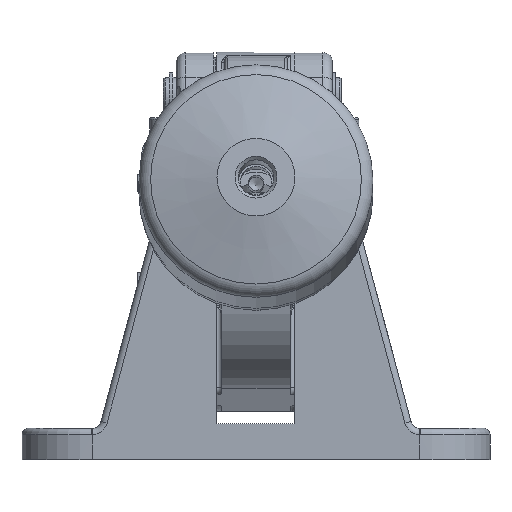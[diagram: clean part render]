
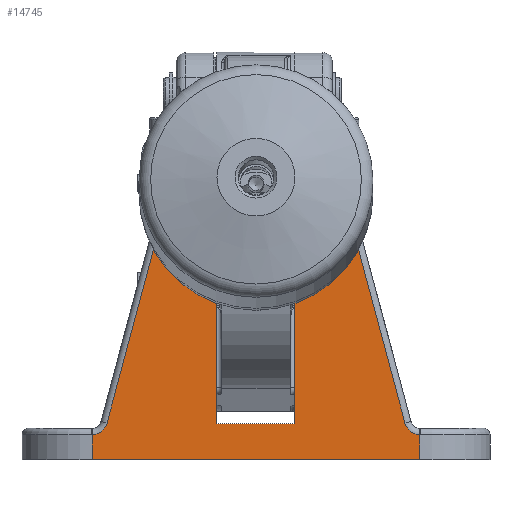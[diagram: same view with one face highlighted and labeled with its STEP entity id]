
A CAD part, front view. The second image highlights one B-rep face of the part: STEP entity #14745.
In plain terms, the highlighted planar face has unit normal (0, -1, 0).
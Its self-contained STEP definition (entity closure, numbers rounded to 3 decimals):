
#827=CIRCLE('',#15770,5.);
#832=CIRCLE('',#15779,5.);
#1658=FACE_OUTER_BOUND('',#2477,.T.);
#2477=EDGE_LOOP('',(#10207,#10208,#10209,#10210,#10211,#10212,#10213,#10214,
#10215,#10216,#10217,#10218,#10219,#10220,#10221,#10222,#10223,#10224));
#3267=LINE('',#24776,#4371);
#3279=LINE('',#24801,#4383);
#3280=LINE('',#24804,#4384);
#3299=LINE('',#24858,#4403);
#3311=LINE('',#24890,#4415);
#3354=LINE('',#24990,#4458);
#3392=LINE('',#25141,#4496);
#3402=LINE('',#25170,#4506);
#3419=LINE('',#25209,#4523);
#3448=LINE('',#25339,#4552);
#3450=LINE('',#25410,#4554);
#3452=LINE('',#25416,#4556);
#3457=LINE('',#25459,#4561);
#3459=LINE('',#25497,#4563);
#3460=LINE('',#25500,#4564);
#3463=LINE('',#25516,#4567);
#4371=VECTOR('',#17684,10.);
#4383=VECTOR('',#17712,10.);
#4384=VECTOR('',#17715,10.);
#4403=VECTOR('',#17762,10.);
#4415=VECTOR('',#17798,10.);
#4458=VECTOR('',#17867,10.);
#4496=VECTOR('',#17975,10.);
#4506=VECTOR('',#17999,10.);
#4523=VECTOR('',#18032,10.);
#4552=VECTOR('',#18127,10.);
#4554=VECTOR('',#18159,10.);
#4556=VECTOR('',#18165,10.);
#4561=VECTOR('',#18186,10.);
#4563=VECTOR('',#18208,10.);
#4564=VECTOR('',#18213,10.);
#4567=VECTOR('',#18234,10.);
#5687=VERTEX_POINT('',#24770);
#5688=VERTEX_POINT('',#24775);
#5693=VERTEX_POINT('',#24799);
#5694=VERTEX_POINT('',#24803);
#5713=VERTEX_POINT('',#24849);
#5715=VERTEX_POINT('',#24856);
#5723=VERTEX_POINT('',#24889);
#5767=VERTEX_POINT('',#24989);
#5824=VERTEX_POINT('',#25138);
#5825=VERTEX_POINT('',#25140);
#5837=VERTEX_POINT('',#25169);
#5851=VERTEX_POINT('',#25207);
#5884=VERTEX_POINT('',#25399);
#5885=VERTEX_POINT('',#25406);
#5887=VERTEX_POINT('',#25414);
#5891=VERTEX_POINT('',#25427);
#5892=VERTEX_POINT('',#25429);
#5895=VERTEX_POINT('',#25496);
#7224=EDGE_CURVE('',#5688,#5687,#3267,.T.);
#7237=EDGE_CURVE('',#5687,#5693,#3279,.T.);
#7238=EDGE_CURVE('',#5694,#5688,#3280,.T.);
#7265=EDGE_CURVE('',#5713,#5715,#3299,.T.);
#7281=EDGE_CURVE('',#5723,#5713,#3311,.T.);
#7331=EDGE_CURVE('',#5767,#5694,#3354,.T.);
#7398=EDGE_CURVE('',#5825,#5824,#3392,.T.);
#7413=EDGE_CURVE('',#5837,#5723,#3402,.T.);
#7435=EDGE_CURVE('',#5693,#5851,#3419,.T.);
#7484=EDGE_CURVE('',#5715,#5825,#3448,.T.);
#7497=EDGE_CURVE('',#5884,#5885,#827,.T.);
#7498=EDGE_CURVE('',#5885,#5851,#3450,.T.);
#7501=EDGE_CURVE('',#5887,#5884,#3452,.T.);
#7509=EDGE_CURVE('',#5892,#5891,#832,.T.);
#7512=EDGE_CURVE('',#5837,#5892,#3457,.T.);
#7520=EDGE_CURVE('',#5895,#5891,#3459,.T.);
#7522=EDGE_CURVE('',#5824,#5767,#3460,.T.);
#7529=EDGE_CURVE('',#5895,#5887,#3463,.T.);
#10207=ORIENTED_EDGE('',*,*,#7497,.F.);
#10208=ORIENTED_EDGE('',*,*,#7501,.F.);
#10209=ORIENTED_EDGE('',*,*,#7529,.F.);
#10210=ORIENTED_EDGE('',*,*,#7520,.T.);
#10211=ORIENTED_EDGE('',*,*,#7509,.F.);
#10212=ORIENTED_EDGE('',*,*,#7512,.F.);
#10213=ORIENTED_EDGE('',*,*,#7413,.T.);
#10214=ORIENTED_EDGE('',*,*,#7281,.T.);
#10215=ORIENTED_EDGE('',*,*,#7265,.T.);
#10216=ORIENTED_EDGE('',*,*,#7484,.T.);
#10217=ORIENTED_EDGE('',*,*,#7398,.T.);
#10218=ORIENTED_EDGE('',*,*,#7522,.T.);
#10219=ORIENTED_EDGE('',*,*,#7331,.T.);
#10220=ORIENTED_EDGE('',*,*,#7238,.T.);
#10221=ORIENTED_EDGE('',*,*,#7224,.T.);
#10222=ORIENTED_EDGE('',*,*,#7237,.T.);
#10223=ORIENTED_EDGE('',*,*,#7435,.T.);
#10224=ORIENTED_EDGE('',*,*,#7498,.F.);
#13560=PLANE('',#15802);
#14745=ADVANCED_FACE('',(#1658),#13560,.T.);
#15770=AXIS2_PLACEMENT_3D('',#25408,#18155,#18156);
#15779=AXIS2_PLACEMENT_3D('',#25431,#18180,#18181);
#15802=AXIS2_PLACEMENT_3D('',#25515,#18232,#18233);
#17684=DIRECTION('',(-1.,0.,0.));
#17712=DIRECTION('',(-1.,0.,0.));
#17715=DIRECTION('',(-1.,0.,0.));
#17762=DIRECTION('',(-1.,0.,0.));
#17798=DIRECTION('',(-1.,0.,0.));
#17867=DIRECTION('',(0.,0.,1.));
#17975=DIRECTION('',(0.,0.,-1.));
#17999=DIRECTION('',(0.,0.,1.));
#18032=DIRECTION('',(0.,0.,-1.));
#18127=DIRECTION('',(-1.,0.,0.));
#18155=DIRECTION('center_axis',(0.,-1.,0.));
#18156=DIRECTION('ref_axis',(0.619,0.,-0.785));
#18159=DIRECTION('',(0.259,0.,0.966));
#18165=DIRECTION('',(0.,0.,1.));
#18180=DIRECTION('center_axis',(0.,-1.,0.));
#18181=DIRECTION('ref_axis',(-0.619,0.,-0.785));
#18186=DIRECTION('',(0.259,0.,-0.966));
#18208=DIRECTION('',(0.,0.,1.));
#18213=DIRECTION('',(-1.,0.,0.));
#18232=DIRECTION('center_axis',(0.,-1.,0.));
#18233=DIRECTION('ref_axis',(0.,0.,
-1.));
#18234=DIRECTION('',(-1.,0.,0.));
#24770=CARTESIAN_POINT('',(-27.,-13.5,110.35));
#24775=CARTESIAN_POINT('',(-14.,-13.5,110.35));
#24776=CARTESIAN_POINT('',(52.5,-13.5,110.35));
#24799=CARTESIAN_POINT('',(-27.5,-13.5,110.35));
#24801=CARTESIAN_POINT('',(52.5,-13.5,110.35));
#24803=CARTESIAN_POINT('',(-12.5,-13.5,110.35));
#24804=CARTESIAN_POINT('',(52.5,-13.5,110.35));
#24849=CARTESIAN_POINT('',(27.,-13.5,110.35));
#24856=CARTESIAN_POINT('',(14.,-13.5,110.35));
#24858=CARTESIAN_POINT('',(52.5,-13.5,110.35));
#24889=CARTESIAN_POINT('',(27.5,-13.5,110.35));
#24890=CARTESIAN_POINT('',(52.5,-13.5,110.35));
#24989=CARTESIAN_POINT('',(-12.5,-13.5,11.85));
#24990=CARTESIAN_POINT('',(-12.5,-13.5,55.35));
#25138=CARTESIAN_POINT('',(12.5,-13.5,11.85));
#25140=CARTESIAN_POINT('',(12.5,-13.5,110.35));
#25141=CARTESIAN_POINT('',(12.5,-13.5,6.1));
#25169=CARTESIAN_POINT('',(27.5,-13.5,87.623));
#25170=CARTESIAN_POINT('',(27.5,-13.5,55.35));
#25207=CARTESIAN_POINT('',(-27.5,-13.5,87.623));
#25209=CARTESIAN_POINT('',(-27.5,-13.5,47.85));
#25339=CARTESIAN_POINT('',(52.5,-13.5,110.35));
#25399=CARTESIAN_POINT('',(-52.5,-13.5,8.351));
#25406=CARTESIAN_POINT('',(-47.748,-13.5,12.056));
#25408=CARTESIAN_POINT('Origin',(-52.578,-13.5,13.35));
#25410=CARTESIAN_POINT('',(-45.854,-13.5,19.126));
#25414=CARTESIAN_POINT('',(-52.5,-13.5,0.35));
#25416=CARTESIAN_POINT('',(-52.5,-13.5,0.35));
#25427=CARTESIAN_POINT('',(52.5,-13.5,8.351));
#25429=CARTESIAN_POINT('',(47.748,-13.5,12.056));
#25431=CARTESIAN_POINT('Origin',(52.578,-13.5,13.35));
#25459=CARTESIAN_POINT('',(38.28,-13.5,47.389));
#25496=CARTESIAN_POINT('',(52.5,-13.5,0.35));
#25497=CARTESIAN_POINT('',(52.5,-13.5,0.35));
#25500=CARTESIAN_POINT('',(27.955,-13.5,11.85));
#25515=CARTESIAN_POINT('Origin',(52.5,-13.5,0.35));
#25516=CARTESIAN_POINT('',(52.5,-13.5,0.35));
